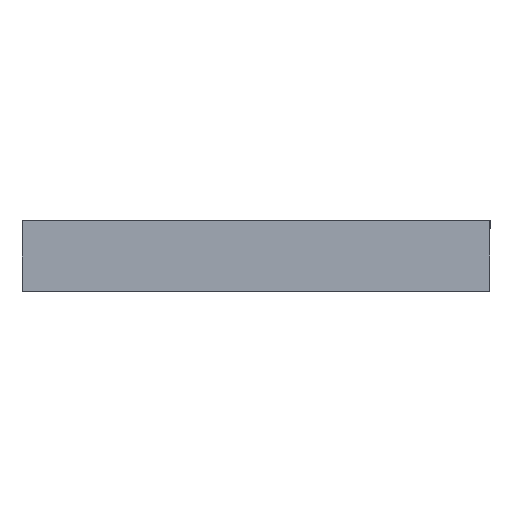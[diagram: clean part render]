
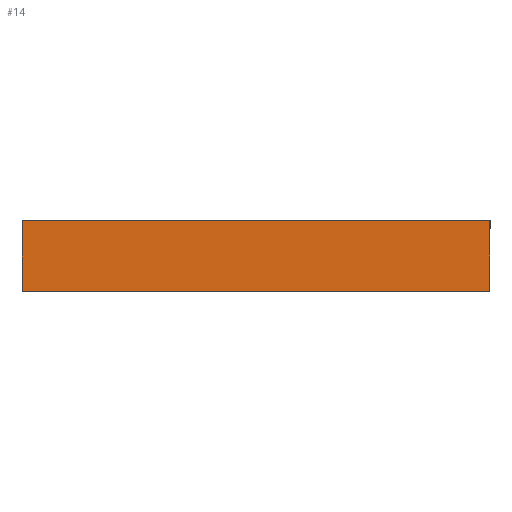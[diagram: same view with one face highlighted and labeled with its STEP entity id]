
A CAD part, left-side view. The second image highlights one B-rep face of the part: STEP entity #14.
In plain terms, the highlighted planar face has unit normal (-1, 0, 0).
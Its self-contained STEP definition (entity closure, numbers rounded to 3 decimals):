
#14 = ADVANCED_FACE ( 'NONE', ( #310 ), #496, .F. ) ;
#67 = EDGE_CURVE ( 'NONE', #758, #813, #249, .T. ) ;
#99 = EDGE_CURVE ( 'NONE', #802, #813, #185, .T. ) ;
#109 = EDGE_CURVE ( 'NONE', #762, #758, #162, .T. ) ;
#113 = AXIS2_PLACEMENT_3D ( 'NONE', #826, #814, #812 ) ;
#115 = EDGE_CURVE ( 'NONE', #762, #802, #152, .T. ) ;
#151 = VECTOR ( 'NONE', #584, 1000. ) ;
#152 = LINE ( 'NONE', #585, #151 ) ;
#161 = VECTOR ( 'NONE', #596, 1000. ) ;
#162 = LINE ( 'NONE', #597, #161 ) ;
#184 = VECTOR ( 'NONE', #623, 1000. ) ;
#185 = LINE ( 'NONE', #625, #184 ) ;
#238 = VECTOR ( 'NONE', #696, 1000. ) ;
#249 = LINE ( 'NONE', #700, #238 ) ;
#310 = FACE_OUTER_BOUND ( 'NONE', #347, .T. ) ;
#347 = EDGE_LOOP ( 'NONE', ( #430, #431, #433, #432 ) ) ;
#430 = ORIENTED_EDGE ( 'NONE', *, *, #99, .T. ) ;
#431 = ORIENTED_EDGE ( 'NONE', *, *, #67, .F. ) ;
#432 = ORIENTED_EDGE ( 'NONE', *, *, #115, .T. ) ;
#433 = ORIENTED_EDGE ( 'NONE', *, *, #109, .F. ) ;
#496 = PLANE ( 'NONE',  #113 ) ;
#511 = CARTESIAN_POINT ( 'NONE',  ( -251., 0., 0. ) ) ;
#515 = CARTESIAN_POINT ( 'NONE',  ( -251., 429., 0. ) ) ;
#528 = CARTESIAN_POINT ( 'NONE',  ( -251., 429., 65. ) ) ;
#529 = CARTESIAN_POINT ( 'NONE',  ( -251., 0., 65. ) ) ;
#584 = DIRECTION ( 'NONE',  ( 0., 0., -1. ) ) ;
#585 = CARTESIAN_POINT ( 'NONE',  ( -251., 429., 65. ) ) ;
#596 = DIRECTION ( 'NONE',  ( 0., -1., 0. ) ) ;
#597 = CARTESIAN_POINT ( 'NONE',  ( -251., 0., 65. ) ) ;
#623 = DIRECTION ( 'NONE',  ( 0., -1., 0. ) ) ;
#625 = CARTESIAN_POINT ( 'NONE',  ( -251., 0., 0. ) ) ;
#696 = DIRECTION ( 'NONE',  ( 0., 0., -1. ) ) ;
#700 = CARTESIAN_POINT ( 'NONE',  ( -251., 0., 65. ) ) ;
#758 = VERTEX_POINT ( 'NONE', #529 ) ;
#762 = VERTEX_POINT ( 'NONE', #528 ) ;
#802 = VERTEX_POINT ( 'NONE', #515 ) ;
#812 = DIRECTION ( 'NONE',  ( 0., 1., 0. ) ) ;
#813 = VERTEX_POINT ( 'NONE', #511 ) ;
#814 = DIRECTION ( 'NONE',  ( 1., 0., 0. ) ) ;
#826 = CARTESIAN_POINT ( 'NONE',  ( -251., 0., 65. ) ) ;
